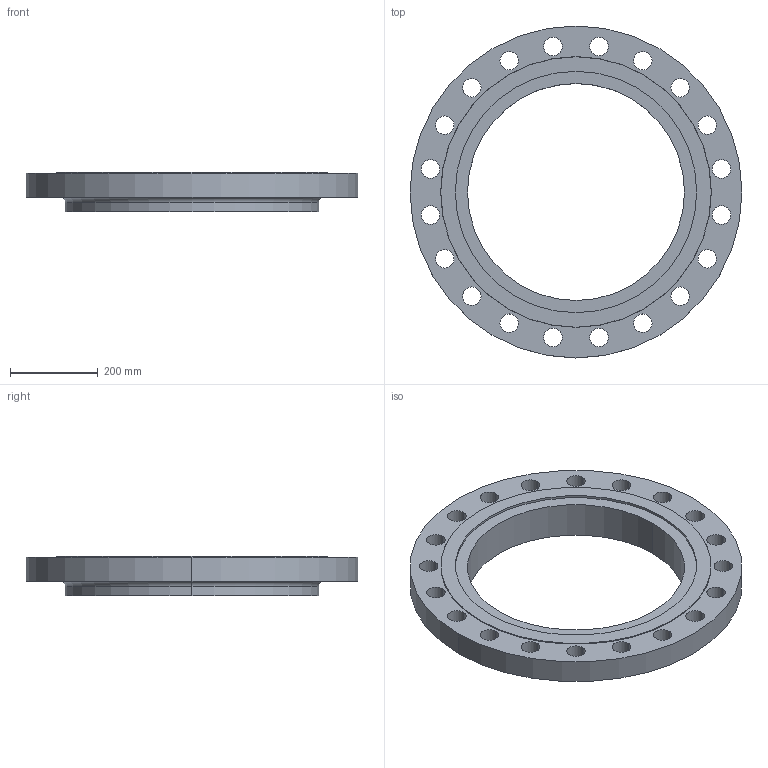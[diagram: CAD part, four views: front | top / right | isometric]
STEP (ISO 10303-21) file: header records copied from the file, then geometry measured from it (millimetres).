
FILE_DESCRIPTION (( 'STEP AP214' ), '1' );
FILE_NAME ('PN40 DN500 Type 13 - Type G Face.STEP', '2018-12-29T01:20:26', ( '' ), ( '' ), 'SwSTEP 2.0', 'SolidWorks 2019', '' );
FILE_SCHEMA (( 'AUTOMOTIVE_DESIGN' ));
Length unit declared in the file: millimetre
Products named in the file (1): PN40 DN500 Type 13 - Type G Face
Bounding box: 755 x 755 x 90 mm (x, y, z)
Volume: 14884332.4 mm3; surface area: 927206.5 mm2
Topology: 1 solids, 1 shells, 57 faces, 154 edges, 102 vertices
Faces by surface type: cylinder 48, plane 5, torus 2, cone 2
Entity records: 1974 total; most frequent: DIRECTION 374, CARTESIAN_POINT 314, ORIENTED_EDGE 308, AXIS2_PLACEMENT_3D 162, EDGE_CURVE 154, CIRCLE 104, VERTEX_POINT 102, EDGE_LOOP 102
